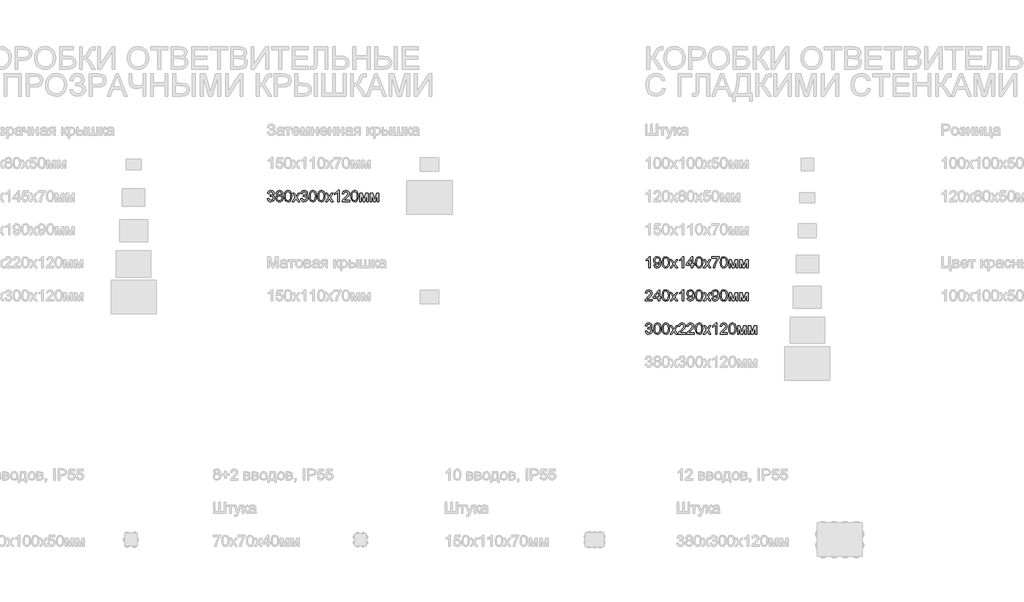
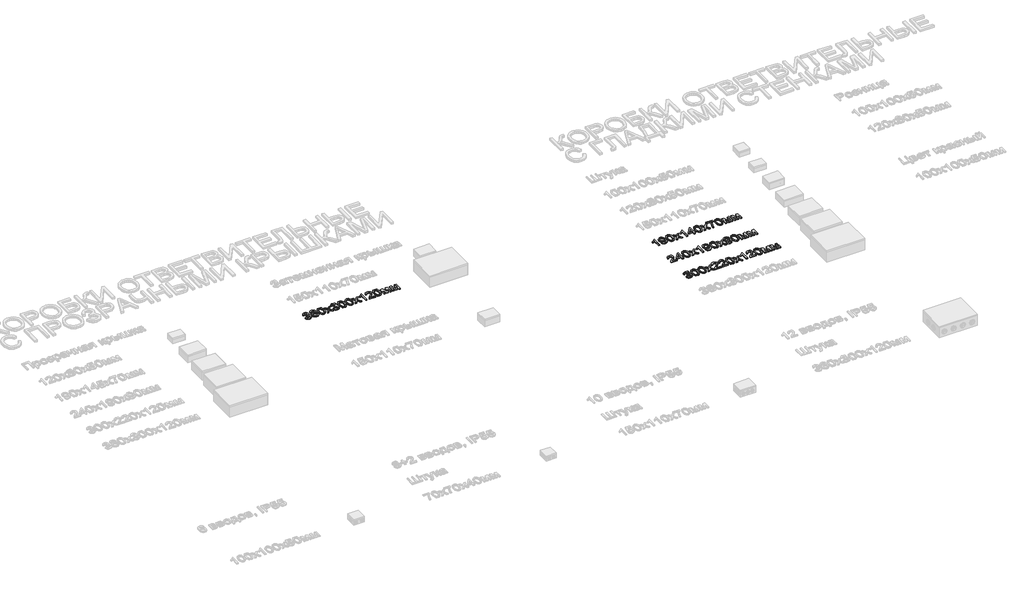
# One storey, part 29 of 98: 4 proxies.
"""IFC4 building model written with IfcOpenShell, lengths in millimetres."""

import ifcopenshell
import ifcopenshell.guid

model = None  # the IFC model being written
_history = None  # IfcOwnerHistory: only IFC2X3 demands one
_inside = {}  # id of a spatial element -> (the spatial element, [elements in it])
_under = {}  # id of a project, library or spatial element -> (it, [spatial elements below it])
_declared = {}  # id of a project -> (the project, [libraries it declares])
_typed = {}  # id of a type object -> (the type object, [elements of that type])
_made_of = {}  # id of a material, layer set ... -> (it, [elements and type objects made of it])


def new_model(schema):
    """Start an empty IFC model of exactly this schema.

    Asked for "IFC4X3", IfcOpenShell would pick the latest addendum, in which some entities
    have other attributes; the version numbers below select the first issue.
    IFC2X3 requires an IfcOwnerHistory on every rooted entity: one is made here for all.
    """
    global model, _history
    if schema == "IFC4X3":
        model = ifcopenshell.file(schema_version=(4, 3, 0, 0))
    else:
        model = ifcopenshell.file(schema=schema)
    _inside.clear()
    _under.clear()
    _declared.clear()
    _typed.clear()
    _made_of.clear()
    _history = None
    if model.schema == "IFC2X3":
        org = make("IfcOrganization", Name="unknown")
        user = make(
            "IfcPersonAndOrganization",
            ThePerson=make("IfcPerson", FamilyName="unknown"),
            TheOrganization=org,
        )
        app = make(
            "IfcApplication",
            ApplicationDeveloper=org,
            Version="unknown",
            ApplicationFullName="unknown",
            ApplicationIdentifier="unknown",
        )
        _history = make(
            "IfcOwnerHistory",
            OwningUser=user,
            OwningApplication=app,
            ChangeAction="ADDED",
            CreationDate=0,
        )
    return model


def make(cls, **values):
    """One entity of the class cls with the attributes given. An attribute that is None is left unset."""
    return model.create_entity(
        cls, **{name: value for name, value in values.items() if value is not None}
    )


def rooted(cls, **values):
    """An entity with a GlobalId (a new one), such as an element, a storey or a relation."""
    return make(cls, GlobalId=ifcopenshell.guid.new(), OwnerHistory=_history, **values)


def si_unit(unit_type, name, prefix=None):
    """IfcSIUnit, for example si_unit("LENGTHUNIT", "METRE", prefix="MILLI")."""
    return make("IfcSIUnit", UnitType=unit_type, Prefix=prefix, Name=name)


def assignment(units):
    """IfcUnitAssignment: the units of a project."""
    return None if units is None else make("IfcUnitAssignment", Units=units)


def point(xyz):
    """IfcCartesianPoint."""
    return None if xyz is None else make("IfcCartesianPoint", Coordinates=xyz)


def direction(xyz):
    """IfcDirection."""
    return None if xyz is None else make("IfcDirection", DirectionRatios=xyz)


def frame(location, z_axis=None, x_axis=None):
    """IfcAxis2Placement3D, a coordinate frame: its origin and axes. An axis left out is left unset."""
    return make(
        "IfcAxis2Placement3D",
        Location=point(location),
        Axis=direction(z_axis),
        RefDirection=direction(x_axis),
    )


def origin():
    """The frame at (0, 0, 0) with its axes left unset."""
    return frame((0.0, 0.0, 0.0))


def origin_with_axes():
    """The frame at (0, 0, 0) with the z axis (0, 0, 1) and the x axis (1, 0, 0) written out."""
    return frame((0.0, 0.0, 0.0), z_axis=(0.0, 0.0, 1.0), x_axis=(1.0, 0.0, 0.0))


def place(relative_to, where):
    """IfcLocalPlacement: puts the frame where relative to a parent placement (None: the world)."""
    return make(
        "IfcLocalPlacement", PlacementRelTo=relative_to, RelativePlacement=where
    )


def context(
    kind, dimensions, precision=None, world=None, true_north=None, identifier=None
):
    """IfcGeometricRepresentationContext, for example the 3D "Model" context."""
    return make(
        "IfcGeometricRepresentationContext",
        ContextIdentifier=identifier,
        ContextType=kind,
        CoordinateSpaceDimension=dimensions,
        Precision=precision,
        WorldCoordinateSystem=world,
        TrueNorth=true_north,
    )


def project(units=None, contexts=None):
    """IfcProject with its units and contexts."""
    return rooted(
        "IfcProject",
        Name="project",
        RepresentationContexts=contexts,
        UnitsInContext=assignment(units),
    )


def spatial(cls, under=None, at=None, **own):
    """A site, building, storey or space (cls), placed at a placement, below another one or the project."""
    s = rooted(cls, ObjectPlacement=at, **own)
    if under is not None:
        _under.setdefault(under.id(), (under, []))[1].append(s)
    return s


def polyline(points):
    """IfcPolyline through the points."""
    return make("IfcPolyline", Points=[point(p) for p in points])


def outline(outer, holes=None, kind="AREA"):
    """IfcArbitraryClosedProfileDef: a profile drawn as a closed curve; with holes, ...WithVoids."""
    if holes is None:
        return make("IfcArbitraryClosedProfileDef", ProfileType=kind, OuterCurve=outer)
    return make(
        "IfcArbitraryProfileDefWithVoids",
        ProfileType=kind,
        OuterCurve=outer,
        InnerCurves=holes,
    )


def extrude(swept, where, along, depth):
    """IfcExtrudedAreaSolid: the profile swept, set in the frame where, extruded along a direction by depth."""
    return make(
        "IfcExtrudedAreaSolid",
        SweptArea=swept,
        Position=where,
        ExtrudedDirection=direction(along),
        Depth=depth,
    )


def shape(context_of_items, identifier, shape_type, items):
    """IfcShapeRepresentation: the items that make up one representation, for example the "Body"."""
    return make(
        "IfcShapeRepresentation",
        ContextOfItems=context_of_items,
        RepresentationIdentifier=identifier,
        RepresentationType=shape_type,
        Items=items,
    )


def made_of(thing, what):
    """Note that an element or type object is made of a material, layer set ...; save() writes the relation."""
    if what is not None:
        _made_of.setdefault(what.id(), (what, []))[1].append(thing)
    return thing


def element(
    cls,
    number,
    at=None,
    inside=None,
    cuts=None,
    type_object=None,
    material=None,
    context=None,
    identifier="Body",
    shape_type=None,
    held_by="IfcProductDefinitionShape",
    body=None,
    shapes=None,
    **own,
):
    """One element of the class cls, such as IfcWall. Its Tag is "e" and its number.

    at: its placement. inside: the storey or other place that contains it. cuts: it is an
    opening in that element (IfcRelVoidsElement). A single representation is given by context,
    identifier, shape_type and body (its items); several are given by shapes. held_by: the class
    of the entity that holds the representations. save() writes the other relations.
    """
    e = rooted(cls, Tag="e%d" % number, ObjectPlacement=at, **own)
    if body is not None:
        shapes = [shape(context, identifier, shape_type, body)]
    if shapes is not None:
        e.Representation = make(held_by, Representations=shapes)
    if inside is not None:
        _inside.setdefault(inside.id(), (inside, []))[1].append(e)
    if cuts is not None:
        rooted(
            "IfcRelVoidsElement", RelatingBuildingElement=cuts, RelatedOpeningElement=e
        )
    if type_object is not None:
        _typed.setdefault(type_object.id(), (type_object, []))[1].append(e)
    return made_of(e, material)


def aggregate(whole, parts):
    """IfcRelAggregates: a whole, such as a stair, and the parts it consists of."""
    return rooted("IfcRelAggregates", RelatingObject=whole, RelatedObjects=parts)


def save(model, path):
    """Write the relations noted so far, then the file.

    IfcRelAggregates (storeys below a building ...), IfcRelContainedInSpatialStructure (elements
    in a storey), IfcRelDefinesByType, IfcRelAssociatesMaterial and IfcRelDeclares: one each for
    every whole, place, type object, material and project.
    """
    for whole, parts in _under.values():
        aggregate(whole, parts)
    for where, things in _inside.values():
        rooted(
            "IfcRelContainedInSpatialStructure",
            RelatedElements=things,
            RelatingStructure=where,
        )
    for kind, things in _typed.values():
        rooted("IfcRelDefinesByType", RelatedObjects=things, RelatingType=kind)
    for what, things in _made_of.values():
        rooted("IfcRelAssociatesMaterial", RelatedObjects=things, RelatingMaterial=what)
    for by, libraries in _declared.values():
        rooted("IfcRelDeclares", RelatingContext=by, RelatedDefinitions=libraries)
    model.write(path)


model = new_model("IFC4")

# Units and contexts
model_context = context("Model", 3, world=origin())
ifc_project = project(units=[si_unit("LENGTHUNIT", "METRE", prefix="MILLI")], contexts=[model_context])

# Site, building, storey
site = spatial("IfcSite", under=ifc_project)
building = spatial("IfcBuilding", under=site)
storey = spatial("IfcBuildingStorey", under=building, Name="Этаж 01", Elevation=0.0)

# Proxies
placement = place(None, origin())
element("IfcBuildingElementProxy", 1, Name="100", ObjectType="100", at=placement, inside=storey, context=model_context, shape_type="SweptSolid", body=[
    extrude(outline(polyline([(8540.6340232, -42610.8536412), (8553.191062, -42609.2840114), (8560.1195062, -42622.5032377), (8573.0812152, -42626.5499397), (8581.6896539, -42625.1581195), (8588.3360553, -42620.9826588), (8594.001438, -42607.1993467), (8588.3851062, -42594.2131123), (8574.1112848, -42589.0750271), (8565.3066424, -42590.4484532), (8566.7045939, -42577.8914145), (8568.7156822, -42578.0385673), (8582.9649781, -42574.4333237), (8587.7106559, -42569.8593242), (8589.2925484, -42563.3478129), (8584.7062862, -42553.5253636), (8572.8850115, -42549.6380772), (8560.9165839, -42553.5621518), (8554.7606918, -42565.3343757), (8542.2036531, -42563.7647458), (8545.9008671, -42552.4891627), (8552.4798235, -42544.0707964), (8561.4806696, -42538.8284779), (8572.4435531, -42537.0810385), (8587.5880285, -42540.5268665), (8598.18303, -42549.9446456), (8601.8495872, -42562.6120489), (8598.366971, -42574.188069), (8588.0662751, -42582.5022021), (8601.7514853, -42591.0861154), (8606.5584767, -42607.4200759), (8604.154981, -42619.6582836), (8596.9444939, -42629.8854031), (8586.0613182, -42636.8015846), (8572.6397568, -42639.1069785), (8560.499651, -42637.1388098), (8550.615888, -42631.2343038), (8543.7426261, -42622.2028008), (8540.6340232, -42610.8536412)])), origin_with_axes(), (0.0, 0.0, 1.0), 10.0),
    extrude(outline(polyline([(8635.8418836, -42582.2078965), (8624.4007535, -42574.4087982), (8620.6851454, -42562.2686924), (8622.7084963, -42552.4523745), (8628.7785493, -42544.3405765), (8638.2147224, -42538.895923), (8650.3364342, -42537.0810385), (8662.5317223, -42538.9388425), (8672.0905228, -42544.5122548), (8678.2709403, -42552.7528115), (8680.3310795, -42562.6120489), (8676.6645223, -42574.4455864), (8665.5422233, -42582.2078965), (8678.8963397, -42592.0548713), (8683.4703392, -42608.3029927), (8681.2017336, -42620.3082085), (8674.3959167, -42630.2287596), (8663.8867543, -42636.8874238), (8650.5081124, -42639.1069785), (8637.1294705, -42636.8782267), (8626.6203082, -42630.1919714), (8619.8144913, -42620.1763841), (8617.5458857, -42607.9596362), (8622.3038261, -42591.33137), (8635.8418836, -42582.2078965)]), holes=[polyline([(8633.2421841, -42562.6365744), (8637.6935563, -42572.4958119), (8650.6552652, -42576.3217846), (8663.3594568, -42572.5203373), (8667.7740407, -42563.2006601), (8663.212304, -42553.5498891), (8650.5081124, -42549.6380772), (8637.7671327, -42553.46405), (8633.2421841, -42562.6365744)]), polyline([(8630.1029244, -42607.5181778), (8632.1998518, -42616.9727451), (8639.6188054, -42624.0483421), (8650.6062143, -42626.5499397), (8659.1533393, -42625.2347616), (8665.5667488, -42621.2892272), (8670.9133004, -42607.9105853), (8665.3950705, -42594.274426), (8658.8345083, -42590.227724), (8650.1892814, -42588.8788234), (8641.761718, -42590.2093299), (8635.4126879, -42594.2008496), (8630.1029244, -42607.5181778)])]), origin_with_axes(), (0.0, 0.0, 1.0), 10.0),
    extrude(outline(polyline([(8694.4577481, -42588.1185339), (8698.1488308, -42559.2152718), (8709.1117143, -42542.5502175), (8727.4199749, -42537.0810385), (8742.0862038, -42540.3184), (8752.2152214, -42549.65034), (8758.1013333, -42564.5127726), (8760.3822017, -42588.1185339), (8756.7279072, -42616.8991687), (8745.8018119, -42633.6010113), (8737.5704523, -42637.7304867), (8727.4199749, -42639.1069785), (8714.3724268, -42636.7157455), (8704.4641384, -42629.5420466), (8696.9593457, -42612.5520298), (8694.4577481, -42588.1185339)]), holes=[polyline([(8707.0147869, -42588.0940085), (8708.4863149, -42607.8462059), (8712.9008988, -42619.2781389), (8719.4737238, -42624.7319895), (8727.4199749, -42626.5499397), (8735.366226, -42624.7258581), (8741.939051, -42619.2536135), (8746.3536349, -42607.8155491), (8747.8251629, -42588.0940085), (8746.4026858, -42568.7863351), (8742.1352547, -42557.2654973), (8735.5746925, -42551.5449322), (8727.2728221, -42549.6380772), (8719.4124101, -42551.3180717), (8713.0971025, -42556.358055), (8708.5353658, -42568.5962627), (8707.0147869, -42588.0940085)])]), origin_with_axes(), (0.0, 0.0, 1.0), 10.0),
    extrude(outline(polyline([(8766.660721, -42637.5373486), (8793.4915812, -42600.4548435), (8768.2303509, -42563.7647458), (8783.3380382, -42563.7647458), (8795.5271949, -42581.4230816), (8801.2171031, -42589.7617402), (8806.1467219, -42582.9436605), (8820.0281358, -42563.7647458), (8835.1358231, -42563.7647458), (8808.5992685, -42600.4548435), (8834.1548044, -42637.5373486), (8819.0471172, -42637.5373486), (8803.6696498, -42615.2436997), (8800.8492211, -42611.1724723), (8781.7684083, -42637.5373486), (8766.660721, -42637.5373486)])), origin_with_axes(), (0.0, 0.0, 1.0), 10.0),
    extrude(outline(polyline([(8842.0029537, -42610.8536412), (8854.5599924, -42609.2840114), (8861.4884367, -42622.5032377), (8874.4501456, -42626.5499397), (8883.0585843, -42625.1581195), (8889.7049857, -42620.9826588), (8895.3703684, -42607.1993467), (8889.7540366, -42594.2131123), (8875.4802152, -42589.0750271), (8866.6755728, -42590.4484532), (8868.0735244, -42577.8914145), (8870.0846126, -42578.0385673), (8884.3339086, -42574.4333237), (8889.0795863, -42569.8593242), (8890.6614789, -42563.3478129), (8886.0752167, -42553.5253636), (8874.2539419, -42549.6380772), (8862.2855143, -42553.5621518), (8856.1296223, -42565.3343757), (8843.5725835, -42563.7647458), (8847.2697976, -42552.4891627), (8853.8487539, -42544.0707964), (8862.8496001, -42538.8284779), (8873.8124835, -42537.0810385), (8888.956959, -42540.5268665), (8899.5519604, -42549.9446456), (8903.2185177, -42562.6120489), (8899.7359014, -42574.188069), (8889.4352056, -42582.5022021), (8903.1204158, -42591.0861154), (8907.9274072, -42607.4200759), (8905.5239115, -42619.6582836), (8898.3134244, -42629.8854031), (8887.4302487, -42636.8015846), (8874.0086872, -42639.1069785), (8861.8685814, -42637.1388098), (8851.9848185, -42631.2343038), (8845.1115565, -42622.2028008), (8842.0029537, -42610.8536412)])), origin_with_axes(), (0.0, 0.0, 1.0), 10.0),
    extrude(outline(polyline([(8918.9148161, -42588.1185339), (8922.6058988, -42559.2152718), (8933.5687823, -42542.5502175), (8951.8770429, -42537.0810385), (8966.5432718, -42540.3184), (8976.6722894, -42549.65034), (8982.5584013, -42564.5127726), (8984.8392697, -42588.1185339), (8981.1849752, -42616.8991687), (8970.2588799, -42633.6010113), (8962.0275203, -42637.7304867), (8951.8770429, -42639.1069785), (8938.8294948, -42636.7157455), (8928.9212064, -42629.5420466), (8921.4164137, -42612.5520298), (8918.9148161, -42588.1185339)]), holes=[polyline([(8931.4718549, -42588.0940085), (8932.9433829, -42607.8462059), (8937.3579668, -42619.2781389), (8943.9307918, -42624.7319895), (8951.8770429, -42626.5499397), (8959.823294, -42624.7258581), (8966.396119, -42619.2536135), (8970.8107029, -42607.8155491), (8972.2822309, -42588.0940085), (8970.8597538, -42568.7863351), (8966.5923227, -42557.2654973), (8960.0317604, -42551.5449322), (8951.7298901, -42549.6380772), (8943.8694781, -42551.3180717), (8937.5541705, -42556.358055), (8932.9924338, -42568.5962627), (8931.4718549, -42588.0940085)])]), origin_with_axes(), (0.0, 0.0, 1.0), 10.0),
    extrude(outline(polyline([(8995.8266786, -42588.1185339), (8999.5177613, -42559.2152718), (9010.4806447, -42542.5502175), (9028.7889053, -42537.0810385), (9043.4551342, -42540.3184), (9053.5841518, -42549.65034), (9059.4702637, -42564.5127726), (9061.7511321, -42588.1185339), (9058.0968376, -42616.8991687), (9047.1707424, -42633.6010113), (9038.9393827, -42637.7304867), (9028.7889053, -42639.1069785), (9015.7413572, -42636.7157455), (9005.8330688, -42629.5420466), (8998.3282761, -42612.5520298), (8995.8266786, -42588.1185339)]), holes=[polyline([(9008.3837173, -42588.0940085), (9009.8552453, -42607.8462059), (9014.2698293, -42619.2781389), (9020.8426542, -42624.7319895), (9028.7889053, -42626.5499397), (9036.7351564, -42624.7258581), (9043.3079814, -42619.2536135), (9047.7225654, -42607.8155491), (9049.1940933, -42588.0940085), (9047.7716163, -42568.7863351), (9043.5041852, -42557.2654973), (9036.9436229, -42551.5449322), (9028.6417525, -42549.6380772), (9020.7813406, -42551.3180717), (9014.466033, -42556.358055), (9009.9042963, -42568.5962627), (9008.3837173, -42588.0940085)])]), origin_with_axes(), (0.0, 0.0, 1.0), 10.0),
    extrude(outline(polyline([(9068.0296515, -42637.5373486), (9094.8605117, -42600.4548435), (9069.5992813, -42563.7647458), (9084.7069686, -42563.7647458), (9096.8961254, -42581.4230816), (9102.5860336, -42589.7617402), (9107.5156523, -42582.9436605), (9121.3970663, -42563.7647458), (9136.5047535, -42563.7647458), (9109.9681989, -42600.4548435), (9135.5237349, -42637.5373486), (9120.4160476, -42637.5373486), (9105.0385802, -42615.2436997), (9102.2181516, -42611.1724723), (9083.1373388, -42637.5373486), (9068.0296515, -42637.5373486)])), origin_with_axes(), (0.0, 0.0, 1.0), 10.0),
    extrude(outline(polyline([(9190.4607795, -42637.5373486), (9177.9037407, -42637.5373486), (9177.9037407, -42559.25206), (9166.0088895, -42567.7256087), (9152.7896632, -42574.0654417), (9152.7896632, -42562.195116), (9171.1960257, -42550.4474176), (9182.3673756, -42537.0810385), (9190.4607795, -42537.0810385), (9190.4607795, -42637.5373486)])), origin_with_axes(), (0.0, 0.0, 1.0), 10.0),
    extrude(outline(polyline([(9284.6385703, -42624.9803098), (9284.6385703, -42637.5373486), (9218.7141167, -42637.5373486), (9220.0630174, -42628.879859), (9227.6904374, -42615.550268), (9243.4112613, -42600.9944038), (9265.0917736, -42580.074181), (9270.5119016, -42565.8494105), (9265.3983419, -42554.334704), (9252.0442255, -42549.6380772), (9238.1260233, -42554.2243394), (9232.8407853, -42566.9040055), (9220.2837466, -42565.3343757), (9223.3279701, -42553.1881385), (9229.9099921, -42544.316051), (9239.6864561, -42538.8897916), (9252.3140056, -42537.0810385), (9265.0335256, -42539.0921267), (9274.7915955, -42545.1253914), (9280.9996042, -42554.1385003), (9283.0689404, -42565.089121), (9280.837123, -42576.9962349), (9273.4181694, -42589.308019), (9255.4287398, -42606.5126337), (9240.9832402, -42618.5914259), (9235.3178574, -42624.9803098), (9284.6385703, -42624.9803098)])), origin_with_axes(), (0.0, 0.0, 1.0), 10.0),
    extrude(outline(polyline([(9297.195609, -42588.1185339), (9300.8866917, -42559.2152718), (9311.8495752, -42542.5502175), (9330.1578358, -42537.0810385), (9344.8240647, -42540.3184), (9354.9530823, -42549.65034), (9360.8391942, -42564.5127726), (9363.1200626, -42588.1185339), (9359.4657681, -42616.8991687), (9348.5396728, -42633.6010113), (9340.3083132, -42637.7304867), (9330.1578358, -42639.1069785), (9317.1102877, -42636.7157455), (9307.2019993, -42629.5420466), (9299.6972066, -42612.5520298), (9297.195609, -42588.1185339)]), holes=[polyline([(9309.7526478, -42588.0940085), (9311.2241758, -42607.8462059), (9315.6387597, -42619.2781389), (9322.2115847, -42624.7319895), (9330.1578358, -42626.5499397), (9338.1040869, -42624.7258581), (9344.6769119, -42619.2536135), (9349.0914958, -42607.8155491), (9350.5630238, -42588.0940085), (9349.1405467, -42568.7863351), (9344.8731156, -42557.2654973), (9338.3125534, -42551.5449322), (9330.010683, -42549.6380772), (9322.150271, -42551.3180717), (9315.8349634, -42556.358055), (9311.2732267, -42568.5962627), (9309.7526478, -42588.0940085)])]), origin_with_axes(), (0.0, 0.0, 1.0), 10.0),
    extrude(outline(polyline([(9377.2467312, -42563.7647458), (9398.853667, -42563.7647458), (9415.5064587, -42622.8220688), (9433.4591, -42563.7647458), (9454.1585936, -42563.7647458), (9454.1585936, -42637.5373486), (9441.6015549, -42637.5373486), (9441.6015549, -42578.1366691), (9423.5508116, -42637.5373486), (9407.0696983, -42637.5373486), (9389.8037699, -42575.291715), (9389.8037699, -42637.5373486), (9377.2467312, -42637.5373486), (9377.2467312, -42563.7647458)])), origin_with_axes(), (0.0, 0.0, 1.0), 10.0),
    extrude(outline(polyline([(9472.9941518, -42563.7647458), (9494.6010876, -42563.7647458), (9511.2538793, -42622.8220688), (9529.2065206, -42563.7647458), (9549.9060142, -42563.7647458), (9549.9060142, -42637.5373486), (9537.3489755, -42637.5373486), (9537.3489755, -42578.1366691), (9519.2982322, -42637.5373486), (9502.8171189, -42637.5373486), (9485.5511906, -42575.291715), (9485.5511906, -42637.5373486), (9472.9941518, -42637.5373486), (9472.9941518, -42563.7647458)])), origin_with_axes(), (0.0, 0.0, 1.0), 10.0),
])
element("IfcBuildingElementProxy", 2, Name="100", ObjectType="100", at=placement, inside=storey, context=model_context, shape_type="SweptSolid", body=[
    extrude(outline(polyline([(12009.4694239, -43237.5373486), (11996.9123851, -43237.5373486), (11996.9123851, -43159.25206), (11985.0175339, -43167.7256087), (11971.7983076, -43174.0654417), (11971.7983076, -43162.195116), (11990.2046701, -43150.4474176), (12001.37602, -43137.0810385), (12009.4694239, -43137.0810385), (12009.4694239, -43237.5373486)])), origin_with_axes(), (0.0, 0.0, 1.0), 10.0),
    extrude(outline(polyline([(12040.8620208, -43212.4232711), (12053.4190596, -43210.8536412), (12059.0599168, -43222.8343315), (12069.7530202, -43226.5499397), (12079.918826, -43224.1587067), (12086.810482, -43217.7698227), (12090.9184976, -43206.8559902), (12092.7333821, -43192.2878632), (12092.6598057, -43189.8353166), (12082.6166273, -43199.3511975), (12068.8455779, -43203.005492), (12057.3952508, -43200.7736746), (12047.8640415, -43194.0782222), (12041.4353036, -43183.7346068), (12039.292391, -43170.5583), (12041.5395368, -43156.9466662), (12048.2809744, -43146.2780883), (12058.4069263, -43139.3803009), (12070.8076152, -43137.0810385), (12088.6989429, -43142.3294883), (12101.010727, -43157.2900227), (12105.2168445, -43185.3962072), (12101.0229898, -43215.8936246), (12095.8082625, -43225.8846864), (12088.5517901, -43233.1718156), (12079.5662724, -43237.6231877), (12069.164409, -43239.1069785), (12058.4283861, -43237.3564733), (12049.862867, -43232.1049578), (12043.8725218, -43223.6835258), (12040.8620208, -43212.4232711)]), holes=[polyline([(12092.6598057, -43170.2639944), (12091.3047737, -43161.7536576), (12087.2396777, -43155.2053581), (12080.9305015, -43151.0298974), (12072.8432289, -43149.6380772), (12064.4555194, -43151.1371964), (12057.7355417, -43155.6345538), (12053.3209577, -43162.5170127), (12051.8494297, -43171.1714367), (12053.2412499, -43178.9306811), (12057.4167106, -43185.0896388), (12063.9711415, -43189.1087496), (12072.4998724, -43190.4484532), (12086.9821603, -43185.0896388), (12091.2403944, -43178.7038205), (12092.6598057, -43170.2639944)])]), origin_with_axes(), (0.0, 0.0, 1.0), 10.0),
    extrude(outline(polyline([(12116.2042534, -43188.1185339), (12119.8953361, -43159.2152718), (12130.8582196, -43142.5502175), (12149.1664802, -43137.0810385), (12163.8327091, -43140.3184), (12173.9617267, -43149.65034), (12179.8478386, -43164.5127726), (12182.128707, -43188.1185339), (12178.4744125, -43216.8991687), (12167.5483172, -43233.6010113), (12159.3169576, -43237.7304867), (12149.1664802, -43239.1069785), (12136.1189321, -43236.7157455), (12126.2106437, -43229.5420466), (12118.705851, -43212.5520298), (12116.2042534, -43188.1185339)]), holes=[polyline([(12128.7612922, -43188.0940085), (12130.2328202, -43207.8462059), (12134.6474041, -43219.2781389), (12141.2202291, -43224.7319895), (12149.1664802, -43226.5499397), (12157.1127313, -43224.7258581), (12163.6855563, -43219.2536135), (12168.1001402, -43207.8155491), (12169.5716682, -43188.0940085), (12168.1491911, -43168.7863351), (12163.88176, -43157.2654973), (12157.3211978, -43151.5449322), (12149.0193274, -43149.6380772), (12141.1589154, -43151.3180717), (12134.8436078, -43156.358055), (12130.2818711, -43168.5962627), (12128.7612922, -43188.0940085)])]), origin_with_axes(), (0.0, 0.0, 1.0), 10.0),
    extrude(outline(polyline([(12188.4072263, -43237.5373486), (12215.2380865, -43200.4548435), (12189.9768562, -43163.7647458), (12205.0845435, -43163.7647458), (12217.2737002, -43181.4230816), (12222.9636084, -43189.7617402), (12227.8932272, -43182.9436605), (12241.7746411, -43163.7647458), (12256.8823284, -43163.7647458), (12230.3457738, -43200.4548435), (12255.9013097, -43237.5373486), (12240.7936225, -43237.5373486), (12225.4161551, -43215.2436997), (12222.5957264, -43211.1724723), (12203.5149136, -43237.5373486), (12188.4072263, -43237.5373486)])), origin_with_axes(), (0.0, 0.0, 1.0), 10.0),
    extrude(outline(polyline([(12310.8383543, -43237.5373486), (12298.2813156, -43237.5373486), (12298.2813156, -43159.25206), (12286.3864644, -43167.7256087), (12273.167238, -43174.0654417), (12273.167238, -43162.195116), (12291.5736005, -43150.4474176), (12302.7449504, -43137.0810385), (12310.8383543, -43137.0810385), (12310.8383543, -43237.5373486)])), origin_with_axes(), (0.0, 0.0, 1.0), 10.0),
    extrude(outline(polyline([(12381.4716974, -43237.5373486), (12381.4716974, -43213.9929009), (12335.9524319, -43213.9929009), (12335.9524319, -43201.4358622), (12384.6109571, -43138.6506683), (12394.0287362, -43138.6506683), (12394.0287362, -43201.4358622), (12406.5857749, -43201.4358622), (12406.5857749, -43213.9929009), (12394.0287362, -43213.9929009), (12394.0287362, -43237.5373486), (12381.4716974, -43237.5373486)]), holes=[polyline([(12381.4716974, -43201.4358622), (12381.4716974, -43162.6365744), (12351.4034757, -43201.4358622), (12381.4716974, -43201.4358622)])]), origin_with_axes(), (0.0, 0.0, 1.0), 10.0),
    extrude(outline(polyline([(12417.5731839, -43188.1185339), (12421.2642666, -43159.2152718), (12432.22715, -43142.5502175), (12450.5354106, -43137.0810385), (12465.2016395, -43140.3184), (12475.3306571, -43149.65034), (12481.216769, -43164.5127726), (12483.4976374, -43188.1185339), (12479.8433429, -43216.8991687), (12468.9172477, -43233.6010113), (12460.685888, -43237.7304867), (12450.5354106, -43239.1069785), (12437.4878625, -43236.7157455), (12427.5795741, -43229.5420466), (12420.0747814, -43212.5520298), (12417.5731839, -43188.1185339)]), holes=[polyline([(12430.1302226, -43188.0940085), (12431.6017506, -43207.8462059), (12436.0163346, -43219.2781389), (12442.5891595, -43224.7319895), (12450.5354106, -43226.5499397), (12458.4816617, -43224.7258581), (12465.0544867, -43219.2536135), (12469.4690707, -43207.8155491), (12470.9405986, -43188.0940085), (12469.5181216, -43168.7863351), (12465.2506904, -43157.2654973), (12458.6901282, -43151.5449322), (12450.3882578, -43149.6380772), (12442.5278459, -43151.3180717), (12436.2125383, -43156.358055), (12431.6508016, -43168.5962627), (12430.1302226, -43188.0940085)])]), origin_with_axes(), (0.0, 0.0, 1.0), 10.0),
    extrude(outline(polyline([(12489.7761568, -43237.5373486), (12516.607017, -43200.4548435), (12491.3457866, -43163.7647458), (12506.4534739, -43163.7647458), (12518.6426307, -43181.4230816), (12524.3325389, -43189.7617402), (12529.2621576, -43182.9436605), (12543.1435716, -43163.7647458), (12558.2512588, -43163.7647458), (12531.7147042, -43200.4548435), (12557.2702402, -43237.5373486), (12542.1625529, -43237.5373486), (12526.7850855, -43215.2436997), (12523.9646569, -43211.1724723), (12504.8838441, -43237.5373486), (12489.7761568, -43237.5373486)])), origin_with_axes(), (0.0, 0.0, 1.0), 10.0),
    extrude(outline(polyline([(12565.1183894, -43151.2077071), (12565.1183894, -43138.6506683), (12631.0428429, -43138.6506683), (12631.0428429, -43148.8042114), (12612.3421749, -43175.8190126), (12598.0315652, -43210.2405046), (12593.3717266, -43237.5373486), (12580.8146879, -43237.5373486), (12585.8056203, -43209.210435), (12599.5030932, -43177.1924387), (12618.4858042, -43151.2077071), (12565.1183894, -43151.2077071)])), origin_with_axes(), (0.0, 0.0, 1.0), 10.0),
    extrude(outline(polyline([(12642.0302519, -43188.1185339), (12645.7213345, -43159.2152718), (12656.684218, -43142.5502175), (12674.9924786, -43137.0810385), (12689.6587075, -43140.3184), (12699.7877251, -43149.65034), (12705.673837, -43164.5127726), (12707.9547054, -43188.1185339), (12704.3004109, -43216.8991687), (12693.3743157, -43233.6010113), (12685.142956, -43237.7304867), (12674.9924786, -43239.1069785), (12661.9449305, -43236.7157455), (12652.0366421, -43229.5420466), (12644.5318494, -43212.5520298), (12642.0302519, -43188.1185339)]), holes=[polyline([(12654.5872906, -43188.0940085), (12656.0588186, -43207.8462059), (12660.4734026, -43219.2781389), (12667.0462275, -43224.7319895), (12674.9924786, -43226.5499397), (12682.9387297, -43224.7258581), (12689.5115547, -43219.2536135), (12693.9261386, -43207.8155491), (12695.3976666, -43188.0940085), (12693.9751896, -43168.7863351), (12689.7077584, -43157.2654973), (12683.1471962, -43151.5449322), (12674.8453258, -43149.6380772), (12666.9849139, -43151.3180717), (12660.6696063, -43156.358055), (12656.1078695, -43168.5962627), (12654.5872906, -43188.0940085)])]), origin_with_axes(), (0.0, 0.0, 1.0), 10.0),
    extrude(outline(polyline([(12722.081374, -43163.7647458), (12743.6883099, -43163.7647458), (12760.3411015, -43222.8220688), (12778.2937429, -43163.7647458), (12798.9932365, -43163.7647458), (12798.9932365, -43237.5373486), (12786.4361977, -43237.5373486), (12786.4361977, -43178.1366691), (12768.3854545, -43237.5373486), (12751.9043411, -43237.5373486), (12734.6384128, -43175.291715), (12734.6384128, -43237.5373486), (12722.081374, -43237.5373486), (12722.081374, -43163.7647458)])), origin_with_axes(), (0.0, 0.0, 1.0), 10.0),
    extrude(outline(polyline([(12817.8287946, -43163.7647458), (12839.4357305, -43163.7647458), (12856.0885221, -43222.8220688), (12874.0411635, -43163.7647458), (12894.7406571, -43163.7647458), (12894.7406571, -43237.5373486), (12882.1836183, -43237.5373486), (12882.1836183, -43178.1366691), (12864.1328751, -43237.5373486), (12847.6517617, -43237.5373486), (12830.3858334, -43175.291715), (12830.3858334, -43237.5373486), (12817.8287946, -43237.5373486), (12817.8287946, -43163.7647458)])), origin_with_axes(), (0.0, 0.0, 1.0), 10.0),
])
element("IfcBuildingElementProxy", 3, Name="100", ObjectType="100", at=placement, inside=storey, context=model_context, shape_type="SweptSolid", body=[
    extrude(outline(polyline([(12026.7353522, -43524.9803098), (12026.7353522, -43537.5373486), (11960.8108987, -43537.5373486), (11962.1597993, -43528.879859), (11969.7872193, -43515.550268), (11985.5080433, -43500.9944038), (12007.1885555, -43480.074181), (12012.6086836, -43465.8494105), (12007.4951238, -43454.334704), (11994.1410074, -43449.6380772), (11980.2228053, -43454.2243394), (11974.9375673, -43466.9040055), (11962.3805285, -43465.3343757), (11965.424752, -43453.1881385), (11972.006774, -43444.316051), (11981.7832381, -43438.8897916), (11994.4107876, -43437.0810385), (12007.1303075, -43439.0921267), (12016.8883775, -43445.1253914), (12023.0963861, -43454.1385003), (12025.1657223, -43465.089121), (12022.9339049, -43476.9962349), (12015.5149513, -43489.308019), (11997.5255218, -43506.5126337), (11983.0800221, -43518.5914259), (11977.4146394, -43524.9803098), (12026.7353522, -43524.9803098)])), origin_with_axes(), (0.0, 0.0, 1.0), 10.0),
    extrude(outline(polyline([(12080.102767, -43537.5373486), (12080.102767, -43513.9929009), (12034.5835014, -43513.9929009), (12034.5835014, -43501.4358622), (12083.2420267, -43438.6506683), (12092.6598057, -43438.6506683), (12092.6598057, -43501.4358622), (12105.2168445, -43501.4358622), (12105.2168445, -43513.9929009), (12092.6598057, -43513.9929009), (12092.6598057, -43537.5373486), (12080.102767, -43537.5373486)]), holes=[polyline([(12080.102767, -43501.4358622), (12080.102767, -43462.6365744), (12050.0345452, -43501.4358622), (12080.102767, -43501.4358622)])]), origin_with_axes(), (0.0, 0.0, 1.0), 10.0),
    extrude(outline(polyline([(12116.2042534, -43488.1185339), (12119.8953361, -43459.2152718), (12130.8582196, -43442.5502175), (12149.1664802, -43437.0810385), (12163.8327091, -43440.3184), (12173.9617267, -43449.65034), (12179.8478386, -43464.5127726), (12182.128707, -43488.1185339), (12178.4744125, -43516.8991687), (12167.5483172, -43533.6010113), (12159.3169576, -43537.7304867), (12149.1664802, -43539.1069785), (12136.1189321, -43536.7157455), (12126.2106437, -43529.5420466), (12118.705851, -43512.5520298), (12116.2042534, -43488.1185339)]), holes=[polyline([(12128.7612922, -43488.0940085), (12130.2328202, -43507.8462059), (12134.6474041, -43519.2781389), (12141.2202291, -43524.7319895), (12149.1664802, -43526.5499397), (12157.1127313, -43524.7258581), (12163.6855563, -43519.2536135), (12168.1001402, -43507.8155491), (12169.5716682, -43488.0940085), (12168.1491911, -43468.7863351), (12163.88176, -43457.2654973), (12157.3211978, -43451.5449322), (12149.0193274, -43449.6380772), (12141.1589154, -43451.3180717), (12134.8436078, -43456.358055), (12130.2818711, -43468.5962627), (12128.7612922, -43488.0940085)])]), origin_with_axes(), (0.0, 0.0, 1.0), 10.0),
    extrude(outline(polyline([(12188.4072263, -43537.5373486), (12215.2380865, -43500.4548435), (12189.9768562, -43463.7647458), (12205.0845435, -43463.7647458), (12217.2737002, -43481.4230816), (12222.9636084, -43489.7617402), (12227.8932272, -43482.9436605), (12241.7746411, -43463.7647458), (12256.8823284, -43463.7647458), (12230.3457738, -43500.4548435), (12255.9013097, -43537.5373486), (12240.7936225, -43537.5373486), (12225.4161551, -43515.2436997), (12222.5957264, -43511.1724723), (12203.5149136, -43537.5373486), (12188.4072263, -43537.5373486)])), origin_with_axes(), (0.0, 0.0, 1.0), 10.0),
    extrude(outline(polyline([(12310.8383543, -43537.5373486), (12298.2813156, -43537.5373486), (12298.2813156, -43459.25206), (12286.3864644, -43467.7256087), (12273.167238, -43474.0654417), (12273.167238, -43462.195116), (12291.5736005, -43450.4474176), (12302.7449504, -43437.0810385), (12310.8383543, -43437.0810385), (12310.8383543, -43537.5373486)])), origin_with_axes(), (0.0, 0.0, 1.0), 10.0),
    extrude(outline(polyline([(12342.2309513, -43512.4232711), (12354.78799, -43510.8536412), (12360.4288473, -43522.8343315), (12371.1219506, -43526.5499397), (12381.2877564, -43524.1587067), (12388.1794125, -43517.7698227), (12392.2874281, -43506.8559902), (12394.1023126, -43492.2878632), (12394.0287362, -43489.8353166), (12383.9855577, -43499.3511975), (12370.2145084, -43503.005492), (12358.7641813, -43500.7736746), (12349.2329719, -43494.0782222), (12342.804234, -43483.7346068), (12340.6613214, -43470.5583), (12342.9084673, -43456.9466662), (12349.6499048, -43446.2780883), (12359.7758567, -43439.3803009), (12372.1765457, -43437.0810385), (12390.0678734, -43442.3294883), (12402.3796575, -43457.2900227), (12406.5857749, -43485.3962072), (12402.3919202, -43515.8936246), (12397.1771929, -43525.8846864), (12389.9207206, -43533.1718156), (12380.9352028, -43537.6231877), (12370.5333394, -43539.1069785), (12359.7973165, -43537.3564733), (12351.2317974, -43532.1049578), (12345.2414523, -43523.6835258), (12342.2309513, -43512.4232711)]), holes=[polyline([(12394.0287362, -43470.2639944), (12392.6737042, -43461.7536576), (12388.6086081, -43455.2053581), (12382.2994319, -43451.0298974), (12374.2121594, -43449.6380772), (12365.8244499, -43451.1371964), (12359.1044721, -43455.6345538), (12354.6898882, -43462.5170127), (12353.2183602, -43471.1714367), (12354.6101804, -43478.9306811), (12358.785641, -43485.0896388), (12365.3400719, -43489.1087496), (12373.8688028, -43490.4484532), (12388.3510907, -43485.0896388), (12392.6093248, -43478.7038205), (12394.0287362, -43470.2639944)])]), origin_with_axes(), (0.0, 0.0, 1.0), 10.0),
    extrude(outline(polyline([(12417.5731839, -43488.1185339), (12421.2642666, -43459.2152718), (12432.22715, -43442.5502175), (12450.5354106, -43437.0810385), (12465.2016395, -43440.3184), (12475.3306571, -43449.65034), (12481.216769, -43464.5127726), (12483.4976374, -43488.1185339), (12479.8433429, -43516.8991687), (12468.9172477, -43533.6010113), (12460.685888, -43537.7304867), (12450.5354106, -43539.1069785), (12437.4878625, -43536.7157455), (12427.5795741, -43529.5420466), (12420.0747814, -43512.5520298), (12417.5731839, -43488.1185339)]), holes=[polyline([(12430.1302226, -43488.0940085), (12431.6017506, -43507.8462059), (12436.0163346, -43519.2781389), (12442.5891595, -43524.7319895), (12450.5354106, -43526.5499397), (12458.4816617, -43524.7258581), (12465.0544867, -43519.2536135), (12469.4690707, -43507.8155491), (12470.9405986, -43488.0940085), (12469.5181216, -43468.7863351), (12465.2506904, -43457.2654973), (12458.6901282, -43451.5449322), (12450.3882578, -43449.6380772), (12442.5278459, -43451.3180717), (12436.2125383, -43456.358055), (12431.6508016, -43468.5962627), (12430.1302226, -43488.0940085)])]), origin_with_axes(), (0.0, 0.0, 1.0), 10.0),
    extrude(outline(polyline([(12489.7761568, -43537.5373486), (12516.607017, -43500.4548435), (12491.3457866, -43463.7647458), (12506.4534739, -43463.7647458), (12518.6426307, -43481.4230816), (12524.3325389, -43489.7617402), (12529.2621576, -43482.9436605), (12543.1435716, -43463.7647458), (12558.2512588, -43463.7647458), (12531.7147042, -43500.4548435), (12557.2702402, -43537.5373486), (12542.1625529, -43537.5373486), (12526.7850855, -43515.2436997), (12523.9646569, -43511.1724723), (12504.8838441, -43537.5373486), (12489.7761568, -43537.5373486)])), origin_with_axes(), (0.0, 0.0, 1.0), 10.0),
    extrude(outline(polyline([(12566.6880192, -43512.4232711), (12579.245058, -43510.8536412), (12584.8859153, -43522.8343315), (12595.5790186, -43526.5499397), (12605.7448244, -43524.1587067), (12612.6364804, -43517.7698227), (12616.7444961, -43506.8559902), (12618.5593806, -43492.2878632), (12618.4858042, -43489.8353166), (12608.4426257, -43499.3511975), (12594.6715763, -43503.005492), (12583.2212492, -43500.7736746), (12573.6900399, -43494.0782222), (12567.261302, -43483.7346068), (12565.1183894, -43470.5583), (12567.3655353, -43456.9466662), (12574.1069728, -43446.2780883), (12584.2329247, -43439.3803009), (12596.6336137, -43437.0810385), (12614.5249414, -43442.3294883), (12626.8367255, -43457.2900227), (12631.0428429, -43485.3962072), (12626.8489882, -43515.8936246), (12621.6342609, -43525.8846864), (12614.3777886, -43533.1718156), (12605.3922708, -43537.6231877), (12594.9904074, -43539.1069785), (12584.2543845, -43537.3564733), (12575.6888654, -43532.1049578), (12569.6985202, -43523.6835258), (12566.6880192, -43512.4232711)]), holes=[polyline([(12618.4858042, -43470.2639944), (12617.1307722, -43461.7536576), (12613.0656761, -43455.2053581), (12606.7564999, -43451.0298974), (12598.6692274, -43449.6380772), (12590.2815179, -43451.1371964), (12583.5615401, -43455.6345538), (12579.1469562, -43462.5170127), (12577.6754282, -43471.1714367), (12579.0672484, -43478.9306811), (12583.242709, -43485.0896388), (12589.7971399, -43489.1087496), (12598.3258708, -43490.4484532), (12612.8081587, -43485.0896388), (12617.0663928, -43478.7038205), (12618.4858042, -43470.2639944)])]), origin_with_axes(), (0.0, 0.0, 1.0), 10.0),
    extrude(outline(polyline([(12642.0302519, -43488.1185339), (12645.7213345, -43459.2152718), (12656.684218, -43442.5502175), (12674.9924786, -43437.0810385), (12689.6587075, -43440.3184), (12699.7877251, -43449.65034), (12705.673837, -43464.5127726), (12707.9547054, -43488.1185339), (12704.3004109, -43516.8991687), (12693.3743157, -43533.6010113), (12685.142956, -43537.7304867), (12674.9924786, -43539.1069785), (12661.9449305, -43536.7157455), (12652.0366421, -43529.5420466), (12644.5318494, -43512.5520298), (12642.0302519, -43488.1185339)]), holes=[polyline([(12654.5872906, -43488.0940085), (12656.0588186, -43507.8462059), (12660.4734026, -43519.2781389), (12667.0462275, -43524.7319895), (12674.9924786, -43526.5499397), (12682.9387297, -43524.7258581), (12689.5115547, -43519.2536135), (12693.9261386, -43507.8155491), (12695.3976666, -43488.0940085), (12693.9751896, -43468.7863351), (12689.7077584, -43457.2654973), (12683.1471962, -43451.5449322), (12674.8453258, -43449.6380772), (12666.9849139, -43451.3180717), (12660.6696063, -43456.358055), (12656.1078695, -43468.5962627), (12654.5872906, -43488.0940085)])]), origin_with_axes(), (0.0, 0.0, 1.0), 10.0),
    extrude(outline(polyline([(12722.081374, -43463.7647458), (12743.6883099, -43463.7647458), (12760.3411015, -43522.8220688), (12778.2937429, -43463.7647458), (12798.9932365, -43463.7647458), (12798.9932365, -43537.5373486), (12786.4361977, -43537.5373486), (12786.4361977, -43478.1366691), (12768.3854545, -43537.5373486), (12751.9043411, -43537.5373486), (12734.6384128, -43475.291715), (12734.6384128, -43537.5373486), (12722.081374, -43537.5373486), (12722.081374, -43463.7647458)])), origin_with_axes(), (0.0, 0.0, 1.0), 10.0),
    extrude(outline(polyline([(12817.8287946, -43463.7647458), (12839.4357305, -43463.7647458), (12856.0885221, -43522.8220688), (12874.0411635, -43463.7647458), (12894.7406571, -43463.7647458), (12894.7406571, -43537.5373486), (12882.1836183, -43537.5373486), (12882.1836183, -43478.1366691), (12864.1328751, -43537.5373486), (12847.6517617, -43537.5373486), (12830.3858334, -43475.291715), (12830.3858334, -43537.5373486), (12817.8287946, -43537.5373486), (12817.8287946, -43463.7647458)])), origin_with_axes(), (0.0, 0.0, 1.0), 10.0),
])
element("IfcBuildingElementProxy", 4, Name="100", ObjectType="100", at=placement, inside=storey, context=model_context, shape_type="SweptSolid", body=[
    extrude(outline(polyline([(11962.3805285, -43810.8536412), (11974.9375673, -43809.2840114), (11981.8660115, -43822.5032377), (11994.8277205, -43826.5499397), (12003.4361592, -43825.1581195), (12010.0825605, -43820.9826588), (12015.7479433, -43807.1993467), (12010.1316115, -43794.2131123), (11995.8577901, -43789.0750271), (11987.0531476, -43790.4484532), (11988.4510992, -43777.8914145), (11990.4621875, -43778.0385673), (12004.7114834, -43774.4333237), (12009.4571612, -43769.8593242), (12011.0390537, -43763.3478129), (12006.4527915, -43753.5253636), (11994.6315167, -43749.6380772), (11982.6630892, -43753.5621518), (11976.5071971, -43765.3343757), (11963.9501584, -43763.7647458), (11967.6473724, -43752.4891627), (11974.2263288, -43744.0707964), (11983.2271749, -43738.8284779), (11994.1900584, -43737.0810385), (12009.3345338, -43740.5268665), (12019.9295353, -43749.9446456), (12023.5960925, -43762.6120489), (12020.1134763, -43774.188069), (12009.8127804, -43782.5022021), (12023.4979906, -43791.0861154), (12028.304982, -43807.4200759), (12025.9014863, -43819.6582836), (12018.6909992, -43829.8854031), (12007.8078235, -43836.8015846), (11994.3862621, -43839.1069785), (11982.2461562, -43837.1388098), (11972.3623933, -43831.2343038), (11965.4891314, -43822.2028008), (11962.3805285, -43810.8536412)])), origin_with_axes(), (0.0, 0.0, 1.0), 10.0),
    extrude(outline(polyline([(12039.292391, -43788.1185339), (12042.9834736, -43759.2152718), (12053.9463571, -43742.5502175), (12072.2546177, -43737.0810385), (12086.9208466, -43740.3184), (12097.0498642, -43749.65034), (12102.9359761, -43764.5127726), (12105.2168445, -43788.1185339), (12101.56255, -43816.8991687), (12090.6364548, -43833.6010113), (12082.4050951, -43837.7304867), (12072.2546177, -43839.1069785), (12059.2070696, -43836.7157455), (12049.2987812, -43829.5420466), (12041.7939885, -43812.5520298), (12039.292391, -43788.1185339)]), holes=[polyline([(12051.8494297, -43788.0940085), (12053.3209577, -43807.8462059), (12057.7355417, -43819.2781389), (12064.3083666, -43824.7319895), (12072.2546177, -43826.5499397), (12080.2008688, -43824.7258581), (12086.7736938, -43819.2536135), (12091.1882778, -43807.8155491), (12092.6598057, -43788.0940085), (12091.2373287, -43768.7863351), (12086.9698975, -43757.2654973), (12080.4093353, -43751.5449322), (12072.1074649, -43749.6380772), (12064.247053, -43751.3180717), (12057.9317454, -43756.358055), (12053.3700086, -43768.5962627), (12051.8494297, -43788.0940085)])]), origin_with_axes(), (0.0, 0.0, 1.0), 10.0),
    extrude(outline(polyline([(12116.2042534, -43788.1185339), (12119.8953361, -43759.2152718), (12130.8582196, -43742.5502175), (12149.1664802, -43737.0810385), (12163.8327091, -43740.3184), (12173.9617267, -43749.65034), (12179.8478386, -43764.5127726), (12182.128707, -43788.1185339), (12178.4744125, -43816.8991687), (12167.5483172, -43833.6010113), (12159.3169576, -43837.7304867), (12149.1664802, -43839.1069785), (12136.1189321, -43836.7157455), (12126.2106437, -43829.5420466), (12118.705851, -43812.5520298), (12116.2042534, -43788.1185339)]), holes=[polyline([(12128.7612922, -43788.0940085), (12130.2328202, -43807.8462059), (12134.6474041, -43819.2781389), (12141.2202291, -43824.7319895), (12149.1664802, -43826.5499397), (12157.1127313, -43824.7258581), (12163.6855563, -43819.2536135), (12168.1001402, -43807.8155491), (12169.5716682, -43788.0940085), (12168.1491911, -43768.7863351), (12163.88176, -43757.2654973), (12157.3211978, -43751.5449322), (12149.0193274, -43749.6380772), (12141.1589154, -43751.3180717), (12134.8436078, -43756.358055), (12130.2818711, -43768.5962627), (12128.7612922, -43788.0940085)])]), origin_with_axes(), (0.0, 0.0, 1.0), 10.0),
    extrude(outline(polyline([(12188.4072263, -43837.5373486), (12215.2380865, -43800.4548435), (12189.9768562, -43763.7647458), (12205.0845435, -43763.7647458), (12217.2737002, -43781.4230816), (12222.9636084, -43789.7617402), (12227.8932272, -43782.9436605), (12241.7746411, -43763.7647458), (12256.8823284, -43763.7647458), (12230.3457738, -43800.4548435), (12255.9013097, -43837.5373486), (12240.7936225, -43837.5373486), (12225.4161551, -43815.2436997), (12222.5957264, -43811.1724723), (12203.5149136, -43837.5373486), (12188.4072263, -43837.5373486)])), origin_with_axes(), (0.0, 0.0, 1.0), 10.0),
    extrude(outline(polyline([(12328.1042826, -43824.9803098), (12328.1042826, -43837.5373486), (12262.1798291, -43837.5373486), (12263.5287298, -43828.879859), (12271.1561498, -43815.550268), (12286.8769737, -43800.9944038), (12308.557486, -43780.074181), (12313.977614, -43765.8494105), (12308.8640543, -43754.334704), (12295.5099379, -43749.6380772), (12281.5917357, -43754.2243394), (12276.3064977, -43766.9040055), (12263.749459, -43765.3343757), (12266.7936825, -43753.1881385), (12273.3757045, -43744.316051), (12283.1521685, -43738.8897916), (12295.779718, -43737.0810385), (12308.499238, -43739.0921267), (12318.2573079, -43745.1253914), (12324.4653166, -43754.1385003), (12326.5346528, -43765.089121), (12324.3028354, -43776.9962349), (12316.8838818, -43789.308019), (12298.8944522, -43806.5126337), (12284.4489526, -43818.5914259), (12278.7835698, -43824.9803098), (12328.1042826, -43824.9803098)])), origin_with_axes(), (0.0, 0.0, 1.0), 10.0),
    extrude(outline(polyline([(12405.0161451, -43824.9803098), (12405.0161451, -43837.5373486), (12339.0916916, -43837.5373486), (12340.4405922, -43828.879859), (12348.0680122, -43815.550268), (12363.7888362, -43800.9944038), (12385.4693484, -43780.074181), (12390.8894765, -43765.8494105), (12385.7759168, -43754.334704), (12372.4218003, -43749.6380772), (12358.5035982, -43754.2243394), (12353.2183602, -43766.9040055), (12340.6613214, -43765.3343757), (12343.7055449, -43753.1881385), (12350.287567, -43744.316051), (12360.064031, -43738.8897916), (12372.6915805, -43737.0810385), (12385.4111004, -43739.0921267), (12395.1691704, -43745.1253914), (12401.377179, -43754.1385003), (12403.4465153, -43765.089121), (12401.2146978, -43776.9962349), (12393.7957442, -43789.308019), (12375.8063147, -43806.5126337), (12361.360815, -43818.5914259), (12355.6954323, -43824.9803098), (12405.0161451, -43824.9803098)])), origin_with_axes(), (0.0, 0.0, 1.0), 10.0),
    extrude(outline(polyline([(12417.5731839, -43788.1185339), (12421.2642666, -43759.2152718), (12432.22715, -43742.5502175), (12450.5354106, -43737.0810385), (12465.2016395, -43740.3184), (12475.3306571, -43749.65034), (12481.216769, -43764.5127726), (12483.4976374, -43788.1185339), (12479.8433429, -43816.8991687), (12468.9172477, -43833.6010113), (12460.685888, -43837.7304867), (12450.5354106, -43839.1069785), (12437.4878625, -43836.7157455), (12427.5795741, -43829.5420466), (12420.0747814, -43812.5520298), (12417.5731839, -43788.1185339)]), holes=[polyline([(12430.1302226, -43788.0940085), (12431.6017506, -43807.8462059), (12436.0163346, -43819.2781389), (12442.5891595, -43824.7319895), (12450.5354106, -43826.5499397), (12458.4816617, -43824.7258581), (12465.0544867, -43819.2536135), (12469.4690707, -43807.8155491), (12470.9405986, -43788.0940085), (12469.5181216, -43768.7863351), (12465.2506904, -43757.2654973), (12458.6901282, -43751.5449322), (12450.3882578, -43749.6380772), (12442.5278459, -43751.3180717), (12436.2125383, -43756.358055), (12431.6508016, -43768.5962627), (12430.1302226, -43788.0940085)])]), origin_with_axes(), (0.0, 0.0, 1.0), 10.0),
    extrude(outline(polyline([(12489.7761568, -43837.5373486), (12516.607017, -43800.4548435), (12491.3457866, -43763.7647458), (12506.4534739, -43763.7647458), (12518.6426307, -43781.4230816), (12524.3325389, -43789.7617402), (12529.2621576, -43782.9436605), (12543.1435716, -43763.7647458), (12558.2512588, -43763.7647458), (12531.7147042, -43800.4548435), (12557.2702402, -43837.5373486), (12542.1625529, -43837.5373486), (12526.7850855, -43815.2436997), (12523.9646569, -43811.1724723), (12504.8838441, -43837.5373486), (12489.7761568, -43837.5373486)])), origin_with_axes(), (0.0, 0.0, 1.0), 10.0),
    extrude(outline(polyline([(12612.2072848, -43837.5373486), (12599.650246, -43837.5373486), (12599.650246, -43759.25206), (12587.7553948, -43767.7256087), (12574.5361685, -43774.0654417), (12574.5361685, -43762.195116), (12592.942531, -43750.4474176), (12604.1138809, -43737.0810385), (12612.2072848, -43737.0810385), (12612.2072848, -43837.5373486)])), origin_with_axes(), (0.0, 0.0, 1.0), 10.0),
    extrude(outline(polyline([(12706.3850756, -43824.9803098), (12706.3850756, -43837.5373486), (12640.460622, -43837.5373486), (12641.8095227, -43828.879859), (12649.4369427, -43815.550268), (12665.1577666, -43800.9944038), (12686.8382789, -43780.074181), (12692.2584069, -43765.8494105), (12687.1448472, -43754.334704), (12673.7907308, -43749.6380772), (12659.8725286, -43754.2243394), (12654.5872906, -43766.9040055), (12642.0302519, -43765.3343757), (12645.0744754, -43753.1881385), (12651.6564974, -43744.316051), (12661.4329614, -43738.8897916), (12674.0605109, -43737.0810385), (12686.7800309, -43739.0921267), (12696.5381008, -43745.1253914), (12702.7461095, -43754.1385003), (12704.8154457, -43765.089121), (12702.5836283, -43776.9962349), (12695.1646747, -43789.308019), (12677.1752451, -43806.5126337), (12662.7297455, -43818.5914259), (12657.0643627, -43824.9803098), (12706.3850756, -43824.9803098)])), origin_with_axes(), (0.0, 0.0, 1.0), 10.0),
    extrude(outline(polyline([(12718.9421143, -43788.1185339), (12722.633197, -43759.2152718), (12733.5960805, -43742.5502175), (12751.9043411, -43737.0810385), (12766.57057, -43740.3184), (12776.6995876, -43749.65034), (12782.5856995, -43764.5127726), (12784.8665679, -43788.1185339), (12781.2122734, -43816.8991687), (12770.2861781, -43833.6010113), (12762.0548185, -43837.7304867), (12751.9043411, -43839.1069785), (12738.856793, -43836.7157455), (12728.9485046, -43829.5420466), (12721.4437119, -43812.5520298), (12718.9421143, -43788.1185339)]), holes=[polyline([(12731.4991531, -43788.0940085), (12732.9706811, -43807.8462059), (12737.385265, -43819.2781389), (12743.95809, -43824.7319895), (12751.9043411, -43826.5499397), (12759.8505922, -43824.7258581), (12766.4234172, -43819.2536135), (12770.8380011, -43807.8155491), (12772.3095291, -43788.0940085), (12770.887052, -43768.7863351), (12766.6196209, -43757.2654973), (12760.0590586, -43751.5449322), (12751.7571883, -43749.6380772), (12743.8967763, -43751.3180717), (12737.5814687, -43756.358055), (12733.019732, -43768.5962627), (12731.4991531, -43788.0940085)])]), origin_with_axes(), (0.0, 0.0, 1.0), 10.0),
    extrude(outline(polyline([(12798.9932365, -43763.7647458), (12820.6001723, -43763.7647458), (12837.252964, -43822.8220688), (12855.2056053, -43763.7647458), (12875.9050989, -43763.7647458), (12875.9050989, -43837.5373486), (12863.3480602, -43837.5373486), (12863.3480602, -43778.1366691), (12845.2973169, -43837.5373486), (12828.8162035, -43837.5373486), (12811.5502752, -43775.291715), (12811.5502752, -43837.5373486), (12798.9932365, -43837.5373486), (12798.9932365, -43763.7647458)])), origin_with_axes(), (0.0, 0.0, 1.0), 10.0),
    extrude(outline(polyline([(12894.7406571, -43763.7647458), (12916.3475929, -43763.7647458), (12933.0003846, -43822.8220688), (12950.9530259, -43763.7647458), (12971.6525195, -43763.7647458), (12971.6525195, -43837.5373486), (12959.0954808, -43837.5373486), (12959.0954808, -43778.1366691), (12941.0447375, -43837.5373486), (12924.5636242, -43837.5373486), (12907.2976959, -43775.291715), (12907.2976959, -43837.5373486), (12894.7406571, -43837.5373486), (12894.7406571, -43763.7647458)])), origin_with_axes(), (0.0, 0.0, 1.0), 10.0),
])

save(model, "model.ifc")
